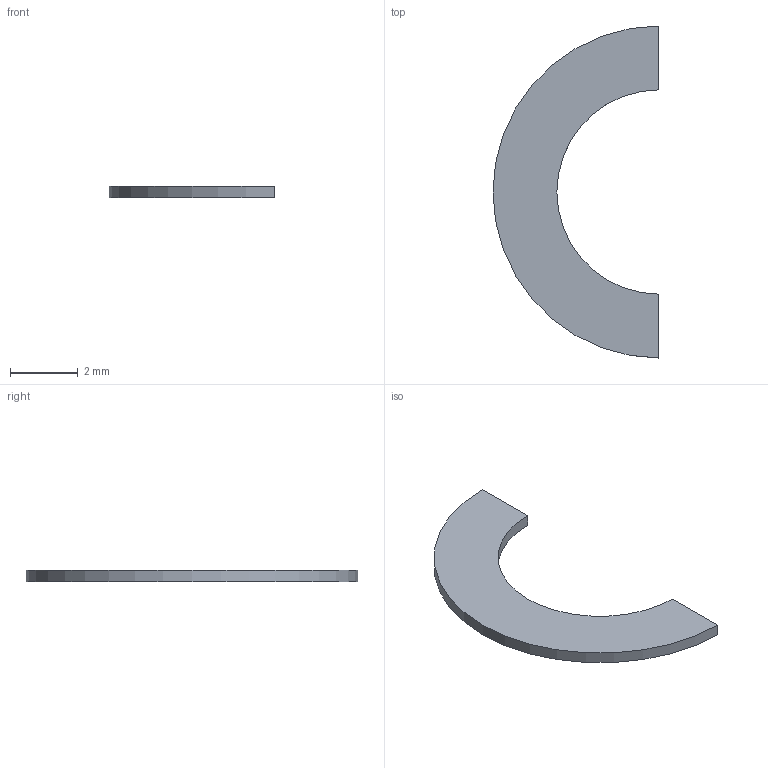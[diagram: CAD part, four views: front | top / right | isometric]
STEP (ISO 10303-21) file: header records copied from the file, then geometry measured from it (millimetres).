
FILE_DESCRIPTION(('Open CASCADE Model'),'2;1');
FILE_NAME('Open CASCADE Shape Model','2026-09-24T19:52:59',('Author'),( 'Open CASCADE'),'Open CASCADE STEP processor 7.8','Open CASCADE 7.8' ,'Unknown');
FILE_SCHEMA(('AUTOMOTIVE_DESIGN { 1 0 10303 214 1 1 1 1 }'));
Length unit declared in the file: millimetre
Products named in the file (1): Open CASCADE STEP translator 7.8 40
Bounding box: 4.9 x 9.8 x 0.35 mm (x, y, z)
Volume: 8.2 mm3; surface area: 56.9 mm2
Topology: 1 solids, 1 shells, 6 faces, 12 edges, 8 vertices
Faces by surface type: plane 4, cylinder 2
Entity records: 310 total; most frequent: CARTESIAN_POINT 67, DIRECTION 38, ORIENTED_EDGE 24, PCURVE 24, DEFINITIONAL_REPRESENTATION 24, B_SPLINE_CURVE_WITH_KNOTS 16, EDGE_CURVE 12, SURFACE_CURVE 12
